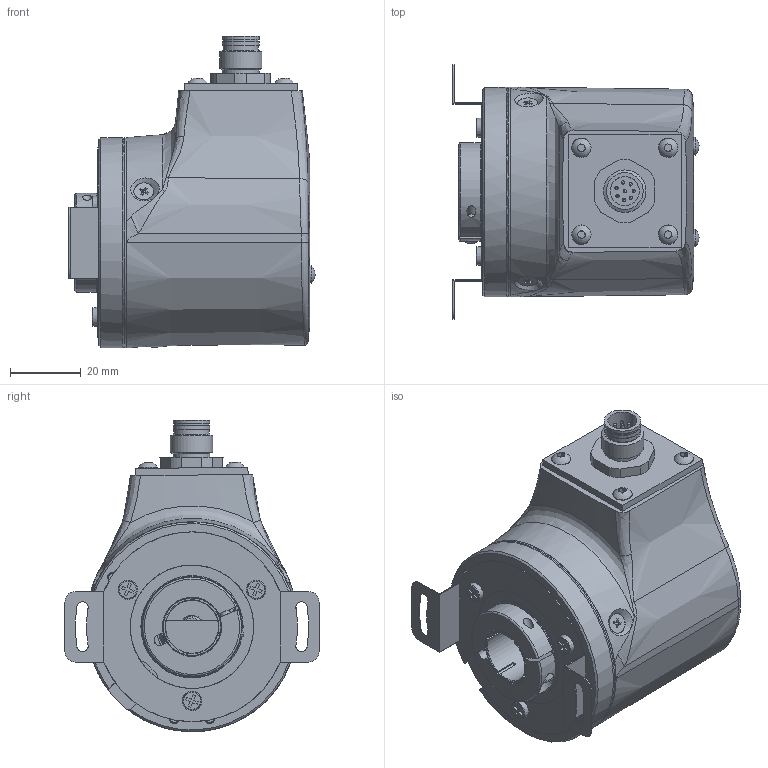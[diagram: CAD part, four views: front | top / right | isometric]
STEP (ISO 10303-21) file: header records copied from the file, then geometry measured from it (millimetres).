
FILE_DESCRIPTION(/* description */ ('Unknown'),/* implementation_level */ '2;1');
FILE_NAME(/* name */ 'EAL_EAML_58_F_M12R',/* time_stamp */ '2018-11-12T10:16:05+01:00',/* author */ ('Unknown'),/* organization */ ('Unknown'),/* preprocessor_version */ 'ST-DEVELOPER v16.7',/* originating_system */ 'DEX',/* authorisation */ $);
FILE_SCHEMA (('AUTOMOTIVE_DESIGN {1 0 10303 214 3 1 1}'));
Products named in the file (1): EAL_EAML_58_F_M12R
Bounding box: 69.74 x 72 x 88.27 mm (x, y, z)
Volume: 97342.9 mm3; surface area: 57120.8 mm2
Topology: 1 solids, 47 shells, 1737 faces, 4599 edges, 3032 vertices
Faces by surface type: plane 1178, cylinder 364, cone 135, torus 43, bspline 17
Full cylindrical faces by diameter (mm): 0.9 x16, 1.5 x8, 2.459 x20, 2.5 x2, 3 x14, 3.2 x4, 3.242 x1, 3.4 x3, 4 x3, 4.98 x1, 5 x3, 5.6 x3, 6 x6, 6.5 x2, 7.98 x1, 8 x3, 8.25 x1, 8.772 x1, 10 x6, 10.4 x3, 11 x1, 12 x1, 12.4 x1, 13 x2, 14.53 x1, 15 x1, 15.2 x1, 16 x1, 16.8 x1, 17 x5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
Entity records: 64459 total; most frequent: CARTESIAN_POINT 10886, DIRECTION 8343, ORIENTED_EDGE 8236, EDGE_CURVE 4118, LINE 2901, VECTOR 2901, VERTEX_POINT 2869, AXIS2_PLACEMENT_3D 2721
